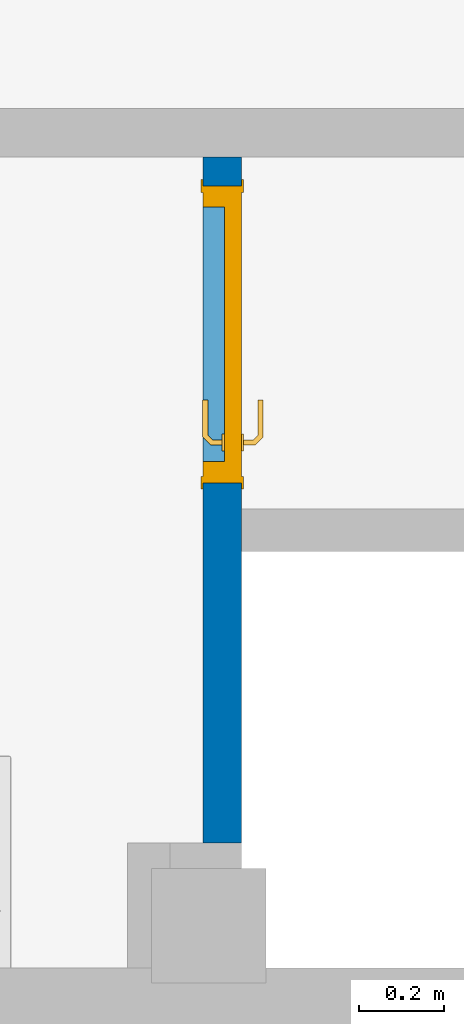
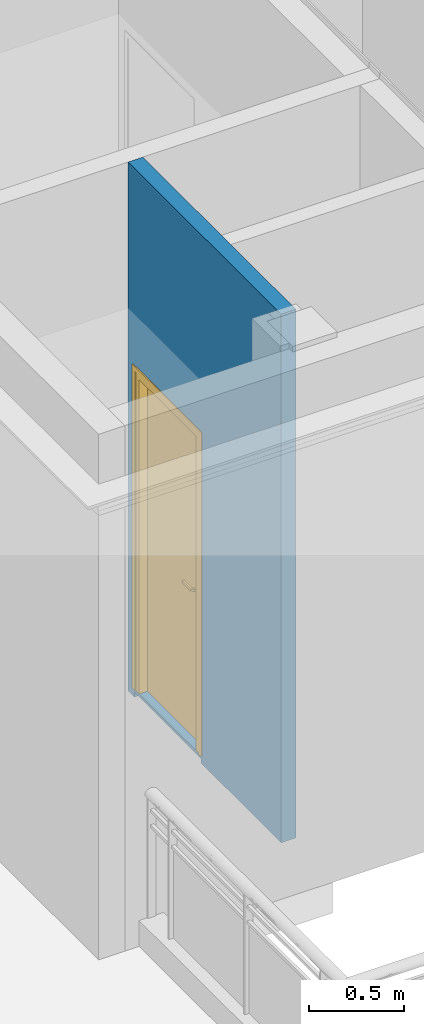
# One storey, part 31 of 65: 1 door, 1 wall, 1 opening.
"""IFC4 building model written with IfcOpenShell, lengths in metres."""

from ifc_helpers import new_model, entity, si_unit, converted_unit, derived_unit, direction, frame, origin, place, context, subcontext, project, spatial, indexed_curve, outline, extrude, polygons, source, transform, mapped, material, material_list, layer, layer_set, constituent, constituent_set, type_object, type_shapes, element, fill, save


model = new_model("IFC4")

# Units and contexts
model_context = context("Model", 3, precision=1e-05, world=origin(), true_north=direction((6.12303176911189e-17, 1.0)))
body_context = subcontext(model_context, "Body", "Model", "MODEL_VIEW")
ifc_project = project(units=[si_unit("LENGTHUNIT", "METRE"), si_unit("AREAUNIT", "SQUARE_METRE"), si_unit("VOLUMEUNIT", "CUBIC_METRE"), converted_unit("PLANEANGLEUNIT", "DEGREE", entity("IfcRatioMeasure", 0.0174532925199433), si_unit("PLANEANGLEUNIT", "RADIAN"), dimensions=[0, 0, 0, 0, 0, 0, 0]), si_unit("MASSUNIT", "GRAM", prefix="KILO"), derived_unit("MASSDENSITYUNIT", [(si_unit("MASSUNIT", "GRAM", prefix="KILO"), 1), (si_unit("LENGTHUNIT", "METRE"), -3)]), derived_unit("MOMENTOFINERTIAUNIT", [(si_unit("LENGTHUNIT", "METRE"), 4)]), si_unit("TIMEUNIT", "SECOND"), si_unit("FREQUENCYUNIT", "HERTZ"), si_unit("THERMODYNAMICTEMPERATUREUNIT", "DEGREE_CELSIUS"), derived_unit("THERMALTRANSMITTANCEUNIT", [(si_unit("MASSUNIT", "GRAM", prefix="KILO"), 1), (si_unit("THERMODYNAMICTEMPERATUREUNIT", "KELVIN"), -1), (si_unit("TIMEUNIT", "SECOND"), -3)]), derived_unit("VOLUMETRICFLOWRATEUNIT", [(si_unit("LENGTHUNIT", "METRE"), 3), (si_unit("TIMEUNIT", "SECOND"), -1)]), si_unit("ELECTRICCURRENTUNIT", "AMPERE"), si_unit("ELECTRICVOLTAGEUNIT", "VOLT"), si_unit("POWERUNIT", "WATT"), si_unit("FORCEUNIT", "NEWTON", prefix="KILO"), si_unit("ILLUMINANCEUNIT", "LUX"), si_unit("LUMINOUSFLUXUNIT", "LUMEN"), si_unit("LUMINOUSINTENSITYUNIT", "CANDELA"), derived_unit("USERDEFINED", [(si_unit("MASSUNIT", "GRAM", prefix="KILO"), -1), (si_unit("LENGTHUNIT", "METRE"), -2), (si_unit("TIMEUNIT", "SECOND"), 3), (si_unit("LUMINOUSFLUXUNIT", "LUMEN"), 1)]), derived_unit("LINEARVELOCITYUNIT", [(si_unit("LENGTHUNIT", "METRE"), 1), (si_unit("TIMEUNIT", "SECOND"), -1)]), si_unit("PRESSUREUNIT", "PASCAL"), derived_unit("USERDEFINED", [(si_unit("LENGTHUNIT", "METRE"), -2), (si_unit("MASSUNIT", "GRAM", prefix="KILO"), 1), (si_unit("TIMEUNIT", "SECOND"), -2)]), derived_unit("LINEARFORCEUNIT", [(si_unit("MASSUNIT", "GRAM", prefix="KILO"), 1), (si_unit("LENGTHUNIT", "METRE"), 1), (si_unit("TIMEUNIT", "SECOND"), -2), (si_unit("LENGTHUNIT", "METRE"), -1)]), derived_unit("PLANARFORCEUNIT", [(si_unit("MASSUNIT", "GRAM", prefix="KILO"), 1), (si_unit("LENGTHUNIT", "METRE"), 1), (si_unit("TIMEUNIT", "SECOND"), -2), (si_unit("LENGTHUNIT", "METRE"), -2)])], contexts=[model_context])

# Site, building, storey
site_placement = place(None, origin())
site = spatial("IfcSite", under=ifc_project, at=site_placement, Name="Default", CompositionType="ELEMENT")
building_placement = place(site_placement, origin())
building = spatial("IfcBuilding", under=site, at=building_placement, Name="HOTEL CONSULAIRE BOULOGNE SUR MER", CompositionType="ELEMENT")
storey_placement = place(building_placement, origin())
storey = spatial("IfcBuildingStorey", under=building, at=storey_placement, Name="Niveau 0", CompositionType="ELEMENT", Elevation=1.31981936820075e-13)

# Wall, opening, door
ifc_material_1 = material(Name="Mur par défaut", Category="Divers")
ifc_layer = layer(ifc_material_1, 0.09, Name="Mur par défaut", Category="Divers")
ifc_layer_set = layer_set([ifc_layer], Name="Mur de base:Générique - Int. 90")
wall_type = type_object("IfcWallType", Name="Mur de base:Générique - Int. 90", PredefinedType="NOTDEFINED", material=ifc_layer_set)
wall_placement = place(storey_placement, frame((-1.19734448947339, -19.6199143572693, -0.0200000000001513), z_axis=(0.0, 0.0, 1.0), x_axis=(0.0, 1.0, 0.0)))
wall = element("IfcWall", 1, at=wall_placement, inside=storey, type_object=wall_type, material=ifc_layer_set, Name="Mur de base:Générique - Int. 90", ObjectType="Mur de base:Générique - Int. 90", PredefinedType="NOTDEFINED", context=body_context, shape_type="Tessellation", body=[
    polygons([(1.61735410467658, 0.0449999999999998, -2.15727435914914e-16), (1.61735410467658, -0.0449999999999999, -2.15727435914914e-16), (1.54920484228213, -0.0449999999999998, -2.15727435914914e-16), (1.54920484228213, 0.0449999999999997, -2.15727435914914e-16), (0.0, -0.045, 3.40652697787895), (0.0, -0.045, -2.15727435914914e-16), (0.687204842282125, -0.045, -2.15727435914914e-16), (0.787204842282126, -0.045, -2.15727435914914e-16), (0.849204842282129, -0.045, -2.15727435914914e-16), (0.849204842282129, -0.045, 0.0300000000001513), (1.54920484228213, -0.045, 0.0300000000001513), (1.61735410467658, -0.045, 0.0300000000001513), (1.61735410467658, -0.045, 3.40652697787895), (0.787204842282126, -0.045, 3.40652697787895), (0.687204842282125, -0.045, 3.40652697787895), (1.54920484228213, -0.045, 2.12500000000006), (1.54920484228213, -0.045, 0.0500000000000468), (0.849204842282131, -0.045, 0.0500000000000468), (0.849204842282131, -0.045, 2.12500000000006), (0.0, 0.045, 3.40652697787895), (1.61735410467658, 0.0450000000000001, 3.40652697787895), (1.61735410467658, 0.0450000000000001, 0.0300000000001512), (1.54920484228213, 0.045, 0.0300000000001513), (0.849204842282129, 0.0449999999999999, 0.0300000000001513), (0.849204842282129, 0.0449999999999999, -2.15727435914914e-16), (0.0, 0.045, -2.15727435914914e-16), (0.0, 0.045, 0.0300000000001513), (1.54920484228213, 0.045, 0.0500000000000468), (1.54920484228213, 0.045, 2.12500000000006), (0.849204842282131, 0.0449999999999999, 2.12500000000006), (0.849204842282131, 0.0449999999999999, 0.0500000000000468)], [[[2, 3, 4, 1]], [[9, 8, 7, 6, 26, 25]], [[29, 16, 19, 30]], [[10, 24, 23, 11]], [[7, 8, 9, 10, 11, 3, 2, 12, 13, 14, 15, 5, 6], [19, 16, 17, 18]], [[1, 4, 23, 24, 25, 26, 27, 20, 21, 22], [28, 29, 30, 31]], [[12, 2, 1, 22, 21, 13]], [[30, 19, 18, 31]], [[24, 10, 9, 25]], [[27, 26, 6, 5, 20]], [[28, 17, 16, 29]], [[11, 23, 4, 3]], [[28, 31, 18, 17]], [[14, 13, 21, 20, 5, 15]]], closed=True),
])
opening_placement = place(wall_placement, frame((1.54920484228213, 0.0449999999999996, 0.0500000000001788)))
opening = element("IfcOpeningElement", 2, at=opening_placement, cuts=wall, Name="Int. Simple:PP (0.63m x 2.04m):1", ObjectType="Opening", PredefinedType="OPENING", context=body_context, shape_type="SweptSolid", body=[
    extrude(outline(indexed_curve([(0.0, 5.41433564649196e-16), (2.07500000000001, 5.41433564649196e-16), (2.07500000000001, 0.699999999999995), (0.0, 0.699999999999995), (0.0, 5.41433564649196e-16)], self_intersect=False)), frame((0.0, 0.0, 0.0), z_axis=(0.0, -1.0, 0.0), x_axis=(0.0, 0.0, 1.0)), (0.0, 0.0, 1.0), 0.09),
])
ifc_material_2 = material(Name="Finition Peinture - Blanc satiné", Category="Peinture")
ifc_constituent_1 = constituent(ifc_material_2, Name="Finition Peinture - Blanc satiné", Category="Matériaux")
ifc_material_3 = material(Name="Bois - Panneau de porte", Category="Bois")
ifc_constituent_2 = constituent(ifc_material_3, Name="Bois - Panneau de porte", Category="Matériaux")
ifc_material_4 = material(Name="Bois - Cadre de porte", Category="Bois")
ifc_constituent_3 = constituent(ifc_material_4, Name="Bois - Cadre de porte", Category="Matériaux")
ifc_constituent_set = constituent_set(constituents=[ifc_constituent_1, ifc_constituent_2, ifc_constituent_3], Name="MaterialConstituentSet")
ifc_material_list = material_list([ifc_material_2, ifc_material_3, ifc_material_4, ifc_material_4])
door_type = type_object("IfcDoorType", Name="Int. Simple:PP (0.63m x 2.04m)", OperationType="NOTDEFINED", PredefinedType="DOOR", material=ifc_material_list)
shared_shape = source(origin(), body_context, "Body", "Tessellation", [
    polygons([(0.0750000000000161, -0.00500000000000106, 0.870000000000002), (0.0846472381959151, -0.00500000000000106, 0.866003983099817), (0.0950000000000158, -0.00500000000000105, 0.86464101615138), (0.105352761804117, -0.00500000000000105, 0.866003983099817), (0.115000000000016, -0.00500000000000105, 0.870000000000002), (0.115000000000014, -0.00500000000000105, 1.08), (0.105352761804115, -0.00500000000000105, 1.08399601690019), (0.0950000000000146, -0.00500000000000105, 1.08535898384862), (0.0846472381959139, -0.00500000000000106, 1.08399601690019), (0.0750000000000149, -0.00500000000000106, 1.08), (0.0750000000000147, -1.06594733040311e-15, 0.870000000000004), (0.075000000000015, -1.06594733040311e-15, 1.08), (0.084647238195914, -1.06594733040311e-15, 1.08399601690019), (0.0950000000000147, -1.05748743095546e-15, 1.08535898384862), (0.105352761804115, -1.05748743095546e-15, 1.08399601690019), (0.115000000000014, -1.04902753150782e-15, 1.08), (0.115000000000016, -1.04902753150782e-15, 0.870000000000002), (0.105352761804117, -1.05748743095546e-15, 0.866003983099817), (0.0950000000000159, -1.05748743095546e-15, 0.86464101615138), (0.0846472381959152, -1.06594733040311e-15, 0.866003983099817)], [[[4, 5, 6, 7, 8, 9, 10, 1, 2, 3]], [[15, 16, 17, 18, 19, 20, 11, 12, 13, 14]], [[11, 20, 2, 1]], [[2, 20, 19, 3]], [[19, 18, 4, 3]], [[18, 17, 5, 4]], [[6, 5, 17, 16]], [[16, 15, 7, 6]], [[7, 15, 14, 8]], [[14, 13, 9, 8]], [[13, 12, 10, 9]], [[1, 10, 12, 11]]], closed=True),
    polygons([(0.115000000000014, 0.0399999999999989, 1.08), (0.105352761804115, 0.0399999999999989, 1.08399601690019), (0.0950000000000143, 0.0399999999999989, 1.08535898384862), (0.0846472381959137, 0.0399999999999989, 1.08399601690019), (0.0750000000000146, 0.0399999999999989, 1.08), (0.0750000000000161, 0.0399999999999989, 0.870000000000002), (0.0846472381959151, 0.0399999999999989, 0.866003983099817), (0.0950000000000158, 0.0399999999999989, 0.86464101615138), (0.105352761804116, 0.0399999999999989, 0.866003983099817), (0.115000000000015, 0.0399999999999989, 0.870000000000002), (0.115000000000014, 0.0449999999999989, 1.08), (0.115000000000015, 0.0449999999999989, 0.870000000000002), (0.105352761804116, 0.0449999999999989, 0.866003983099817), (0.0950000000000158, 0.0449999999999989, 0.86464101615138), (0.0846472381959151, 0.0449999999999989, 0.866003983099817), (0.0750000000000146, 0.0449999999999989, 0.870000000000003), (0.0750000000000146, 0.0449999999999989, 1.08), (0.0846472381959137, 0.0449999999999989, 1.08399601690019), (0.0950000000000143, 0.0449999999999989, 1.08535898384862), (0.105352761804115, 0.0449999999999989, 1.08399601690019)], [[[9, 10, 1, 2, 3, 4, 5, 6, 7, 8]], [[20, 11, 12, 13, 14, 15, 16, 17, 18, 19]], [[11, 20, 2, 1]], [[2, 20, 19, 3]], [[19, 18, 4, 3]], [[18, 17, 5, 4]], [[6, 5, 17, 16]], [[16, 15, 7, 6]], [[7, 15, 14, 8]], [[14, 13, 9, 8]], [[13, 12, 10, 9]], [[1, 10, 12, 11]]], closed=True),
    polygons([(0.0889999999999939, -0.00500000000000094, 1.007), (0.0929747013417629, -0.00500000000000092, 1.00778044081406), (0.0970252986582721, -0.0050000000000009, 1.00778044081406), (0.101000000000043, -0.00500000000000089, 1.00699999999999), (0.101000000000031, -0.00500000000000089, 0.993000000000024), (0.097025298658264, -0.0050000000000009, 0.992219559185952), (0.0929747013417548, -0.00500000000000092, 0.99221955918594), (0.088999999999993, -0.00500000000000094, 0.992999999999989), (0.0889999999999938, -0.0326509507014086, 1.007), (0.0929747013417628, -0.0310045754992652, 1.00778044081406), (0.097025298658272, -0.0293267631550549, 1.00778044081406), (0.101000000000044, -0.0276803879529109, 1.007), (0.101000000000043, -0.0276803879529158, 0.993000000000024), (0.097025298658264, -0.0293267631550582, 0.992219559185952), (0.0929747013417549, -0.0310045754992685, 0.99221955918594), (0.0889999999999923, -0.0326509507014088, 0.992999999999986), (0.107377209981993, -0.0510281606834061, 1.007), (0.109023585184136, -0.0470534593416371, 1.00778044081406), (0.110701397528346, -0.0430028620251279, 1.00778044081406), (0.112347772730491, -0.0390281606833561, 1.007), (0.112347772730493, -0.0390281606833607, 0.993000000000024), (0.110701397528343, -0.0430028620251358, 0.992219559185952), (0.109023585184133, -0.047053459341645, 0.99221955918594), (0.107377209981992, -0.0510281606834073, 0.992999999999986), (0.195018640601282, -0.0510281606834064, 1.00699999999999), (0.195018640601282, -0.0510281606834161, 0.992999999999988), (0.195018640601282, -0.0470534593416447, 0.99221955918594), (0.195018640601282, -0.0430028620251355, 0.992219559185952), (0.195018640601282, -0.039028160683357, 0.993000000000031), (0.195018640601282, -0.0390281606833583, 1.007), (0.195018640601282, -0.0430028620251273, 1.00778044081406), (0.195018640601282, -0.0470534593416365, 1.00778044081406), (0.147307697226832, -0.0510281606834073, 1.007), (0.152860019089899, -0.045028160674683, 1.0078786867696), (0.153683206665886, -0.039028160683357, 1.007), (0.147307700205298, -0.0510281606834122, 0.992999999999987), (0.152860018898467, -0.0450281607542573, 0.992121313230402), (0.153683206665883, -0.039028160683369, 0.993000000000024)], [[[2, 3, 4, 5, 6, 7, 8, 1]], [[21, 20, 35, 30, 29, 38]], [[9, 10, 2, 1]], [[10, 18, 19, 11, 3, 2]], [[11, 12, 4, 3]], [[5, 4, 12, 13]], [[26, 27, 28, 29, 30, 31, 32, 25]], [[13, 14, 6, 5]], [[14, 22, 23, 15, 7, 6]], [[15, 16, 8, 7]], [[1, 8, 16, 9]], [[17, 18, 10, 9]], [[19, 20, 12, 11]], [[13, 12, 20, 21]], [[21, 22, 14, 13]], [[23, 24, 16, 15]], [[9, 16, 24, 17]], [[33, 32, 34]], [[25, 32, 33]], [[18, 17, 33]], [[34, 35, 19]], [[20, 19, 35]], [[35, 31, 30]], [[32, 31, 34]], [[31, 35, 34]], [[18, 33, 34]], [[18, 34, 19]], [[38, 28, 37]], [[36, 37, 27]], [[21, 38, 22]], [[38, 29, 28]], [[26, 36, 27]], [[24, 23, 36]], [[36, 23, 37]], [[23, 22, 37]], [[22, 38, 37]], [[27, 37, 28]], [[17, 24, 36, 26, 25, 33]]], closed=True),
    polygons([(0.101000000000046, 0.0449999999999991, 0.993000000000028), (0.101000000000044, 0.0449999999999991, 1.007), (0.0970252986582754, 0.0449999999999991, 1.00778044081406), (0.0929747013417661, 0.0449999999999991, 1.00778044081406), (0.0889999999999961, 0.044999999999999, 1.007), (0.0889999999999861, 0.044999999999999, 0.992999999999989), (0.0929747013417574, 0.0449999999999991, 0.99221955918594), (0.0970252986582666, 0.0449999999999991, 0.992219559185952), (0.101000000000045, 0.067485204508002, 0.993000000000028), (0.101000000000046, 0.0674852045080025, 1.007), (0.0970252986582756, 0.0691315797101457, 1.00778044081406), (0.0929747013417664, 0.070809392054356, 1.00778044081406), (0.0889999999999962, 0.0724557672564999, 1.007), (0.0889999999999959, 0.072455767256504, 0.992999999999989), (0.0929747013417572, 0.0708093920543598, 0.99221955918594), (0.0970252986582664, 0.0691315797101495, 0.992219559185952), (0.112485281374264, 0.0789704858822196, 0.993000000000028), (0.112485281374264, 0.0789704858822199, 1.007), (0.11083890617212, 0.0829451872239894, 1.00778044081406), (0.10916109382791, 0.0869957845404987, 1.00778044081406), (0.107514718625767, 0.0909704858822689, 1.007), (0.107514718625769, 0.090970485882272, 0.992999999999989), (0.109161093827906, 0.0869957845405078, 0.99221955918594), (0.110838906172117, 0.0829451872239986, 0.992219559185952), (0.19504578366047, 0.0789704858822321, 0.993000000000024), (0.19504578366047, 0.0829451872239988, 0.992219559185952), (0.19504578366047, 0.086995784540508, 0.99221955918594), (0.19504578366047, 0.0909704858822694, 0.992999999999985), (0.19504578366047, 0.0909704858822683, 1.007), (0.19504578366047, 0.0869957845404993, 1.00778044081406), (0.19504578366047, 0.0829451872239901, 1.00778044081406), (0.19504578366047, 0.0789704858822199, 1.007), (0.147445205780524, 0.0909704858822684, 1.007), (0.15294234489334, 0.0849704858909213, 1.0078786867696), (0.153765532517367, 0.0789704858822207, 1.007), (0.147445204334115, 0.0909704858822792, 0.992999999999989), (0.152942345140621, 0.0849704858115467, 0.992121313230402), (0.153765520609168, 0.0789704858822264, 0.993000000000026)], [[[4, 5, 6, 7, 8, 1, 2, 3]], [[18, 17, 38, 25, 32, 35]], [[2, 1, 9, 10]], [[25, 26, 27, 28, 29, 30, 31, 32]], [[10, 11, 3, 2]], [[11, 19, 20, 12, 4, 3]], [[12, 13, 5, 4]], [[6, 5, 13, 14]], [[14, 15, 7, 6]], [[15, 23, 24, 16, 8, 7]], [[16, 9, 1, 8]], [[10, 9, 17, 18]], [[18, 19, 11, 10]], [[20, 21, 13, 12]], [[14, 13, 21, 22]], [[22, 23, 15, 14]], [[24, 17, 9, 16]], [[35, 31, 34]], [[33, 34, 30]], [[18, 35, 19]], [[35, 32, 31]], [[29, 33, 30]], [[21, 20, 33]], [[33, 20, 34]], [[20, 19, 34]], [[19, 35, 34]], [[30, 34, 31]], [[21, 33, 29, 28, 36, 22]], [[36, 27, 37]], [[28, 27, 36]], [[23, 22, 36]], [[37, 38, 24]], [[17, 24, 38]], [[38, 26, 25]], [[27, 26, 37]], [[26, 38, 37]], [[23, 36, 37]], [[23, 37, 24]]], closed=True),
    polygons([(0.0350000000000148, 0.04, 2.04), (0.665000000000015, 0.04, 2.04), (0.665000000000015, 0.04, 0.0), (0.0350000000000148, 0.04, 0.0), (0.0350000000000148, 3.38395977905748e-17, 2.04), (0.0350000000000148, 3.38395977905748e-17, 0.0), (0.665000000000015, 3.38395977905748e-17, 0.0), (0.665000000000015, 3.38395977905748e-17, 2.04)], [[[4, 1, 2, 3]], [[7, 8, 5, 6]], [[2, 1, 5, 8]], [[3, 2, 8, 7]], [[4, 3, 7, 6]], [[1, 4, 6, 5]]], closed=True),
    polygons([(-2.70716782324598e-16, 8.45989944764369e-18, 0.0), (-2.70716782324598e-16, 0.090000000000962, 0.0), (0.050000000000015, 0.090000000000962, 0.0), (0.050000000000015, 0.0400000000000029, 0.0), (0.0350000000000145, 0.0400000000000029, 0.0), (0.0350000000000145, 8.45989944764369e-18, 0.0), (-2.03037586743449e-16, 8.45989944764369e-18, 2.07500000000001), (-2.03037586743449e-16, 0.090000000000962, 2.07500000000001), (0.699999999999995, 0.090000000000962, 2.07500000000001), (0.699999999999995, 0.090000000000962, 1.16645647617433e-24), (0.64999999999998, 0.090000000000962, -1.79828591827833e-24), (0.64999999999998, 0.090000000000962, 2.025), (0.0500000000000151, 0.090000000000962, 2.02499999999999), (0.0500000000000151, 0.0400000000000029, 2.02499999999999), (0.64999999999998, 0.0400000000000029, 2.025), (0.64999999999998, 0.0400000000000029, 1.49408317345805e-25), (0.66499999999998, 0.0400000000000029, 1.4641916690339e-24), (0.66499999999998, 0.0400000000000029, 2.04), (0.0350000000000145, 0.0400000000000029, 2.04), (0.0350000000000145, 8.45989944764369e-18, 2.04), (0.66499999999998, 8.45989944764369e-18, 2.04), (0.66499999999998, 8.45989944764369e-18, 0.0), (0.699999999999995, 8.45989944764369e-18, 4.03399441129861e-24), (0.699999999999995, 8.45989944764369e-18, 2.07500000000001)], [[[5, 6, 1, 2, 3, 4]], [[11, 10, 23, 22, 17, 16]], [[14, 13, 12, 15]], [[20, 19, 18, 21]], [[2, 1, 7, 8]], [[15, 12, 11, 16]], [[21, 18, 17, 22]], [[3, 2, 8, 9, 10, 11, 12, 13]], [[4, 3, 13, 14]], [[6, 5, 19, 20]], [[9, 24, 23, 10]], [[16, 17, 18, 19, 5, 4, 14, 15]], [[22, 23, 24, 7, 1, 6, 20, 21]], [[8, 7, 24, 9]]], closed=True),
    polygons([(0.0149999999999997, 0.090000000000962, 0.0), (-0.0150000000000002, 0.090000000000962, 0.0), (-0.0150000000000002, 0.095000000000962, 0.0), (0.0149999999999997, 0.095000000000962, 0.0), (0.0149999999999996, 0.090000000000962, 2.06000000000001), (0.684999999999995, 0.090000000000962, 2.06000000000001), (0.684999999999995, 0.090000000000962, -5.40476895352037e-24), (0.714999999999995, 0.090000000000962, 1.09662010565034e-24), (0.714999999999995, 0.090000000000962, 2.09000000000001), (-0.0150000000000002, 0.090000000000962, 2.09000000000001), (-0.0150000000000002, 0.095000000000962, 2.09000000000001), (0.714999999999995, 0.095000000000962, 2.09000000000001), (0.714999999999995, 0.095000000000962, 9.94022571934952e-24), (0.684999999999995, 0.095000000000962, 3.01102000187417e-24), (0.684999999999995, 0.095000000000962, 2.06000000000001), (0.0149999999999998, 0.095000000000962, 2.06000000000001)], [[[1, 2, 3, 4]], [[14, 13, 8, 7]], [[5, 16, 15, 6]], [[7, 8, 9, 10, 2, 1, 5, 6]], [[3, 2, 10, 11]], [[6, 15, 14, 7]], [[4, 3, 11, 12, 13, 14, 15, 16]], [[1, 4, 16, 5]], [[12, 9, 8, 13]], [[11, 10, 9, 12]]], closed=True),
    polygons([(0.0149999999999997, -0.00500000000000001, 0.0), (-0.0150000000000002, -0.00500000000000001, 0.0), (-0.0150000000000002, 8.45989944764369e-18, 0.0), (0.0149999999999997, 8.45989944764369e-18, 0.0), (0.684999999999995, -0.00500000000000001, -5.41433564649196e-16), (0.684999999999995, 8.45989944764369e-18, -5.41433564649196e-16), (0.714999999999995, 8.45989944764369e-18, -5.41433564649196e-16), (0.714999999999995, -0.00500000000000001, -5.41433564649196e-16), (0.0149999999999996, -0.00500000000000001, 2.06000000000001), (0.684999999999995, -0.00500000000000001, 2.06000000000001), (0.714999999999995, -0.00500000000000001, 2.09000000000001), (-0.0150000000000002, -0.00500000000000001, 2.09000000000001), (-0.0150000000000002, 8.45989944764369e-18, 2.09000000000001), (0.714999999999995, 8.45989944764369e-18, 2.09000000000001), (0.684999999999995, 8.45989944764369e-18, 2.06000000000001), (0.0149999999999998, 8.45989944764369e-18, 2.06000000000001)], [[[1, 2, 3, 4]], [[6, 7, 8, 5]], [[9, 16, 15, 10]], [[5, 8, 11, 12, 2, 1, 9, 10]], [[3, 2, 12, 13]], [[10, 15, 6, 5]], [[4, 3, 13, 14, 7, 6, 15, 16]], [[1, 4, 16, 9]], [[14, 11, 8, 7]], [[13, 12, 11, 14]]], closed=True),
])
type_shapes(door_type, [shared_shape])
door_placement = place(opening_placement, frame((-0.699999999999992, -0.0900000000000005, 0.0)))
door = element("IfcDoor", 3, at=door_placement, inside=storey, type_object=door_type, material=ifc_constituent_set, Name="Int. Simple:PP (0.63m x 2.04m)", ObjectType="Int. Simple:PP (0.63m x 2.04m)", OperationType="NOTDEFINED", OverallHeight=2.07500000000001, OverallWidth=0.699999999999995, PredefinedType="DOOR", context=body_context, shape_type="MappedRepresentation", body=[
    mapped(shared_shape, transform((0.0, 0.0, 0.0), scale=1.0)),
])
fill(opening, door)

save(model, "model.ifc")
